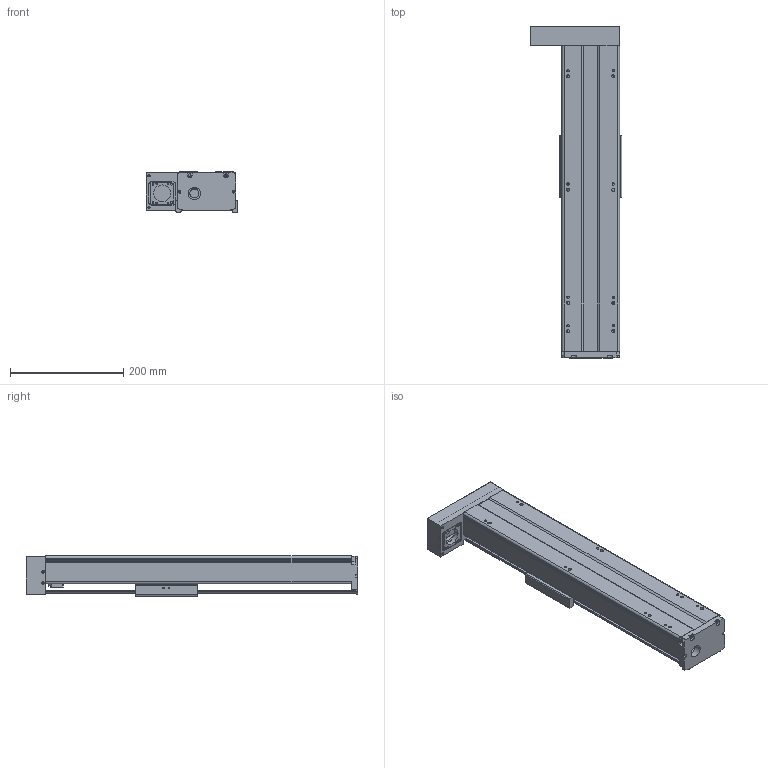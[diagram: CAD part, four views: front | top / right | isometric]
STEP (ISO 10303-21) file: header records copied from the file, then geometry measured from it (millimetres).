
FILE_DESCRIPTION(/* description */ (''),/* implementation_level */ '2;1');
FILE_NAME(/* name */ 'TKA100-FL-350_asm1.stp',/* time_stamp */ '2016-05-17T14:46:47+08:00',/* author */ (''),/* organization */ (''),/* preprocessor_version */ 'ST-DEVELOPER v15',/* originating_system */ 'SIEMENS PLM Software NX 8.5',/* authorisation */ '');
FILE_SCHEMA (('AUTOMOTIVE_DESIGN { 1 0 10303 214 3 1 1 1 }'));
Length unit declared in the file: millimetre
Products named in the file (3): 200-2; 200-1; TKA100-FL-350_asm1
Assembly tree (2 placements, depth 2):
  TKA100-FL-350_asm1
    200-1
    200-2
Bounding box: 162 x 586 x 71 mm (x, y, z)
Volume: 1403865 mm3; surface area: 480670.1 mm2
Topology: 2 solids, 16 shells, 784 faces, 2036 edges, 1323 vertices
Faces by surface type: plane 316, cylinder 295, cone 119, torus 28, bspline 26
Full cylindrical faces by diameter (mm): 2.5 x6, 2.6 x8, 3.3 x11, 3.4 x4, 3.8 x8, 4.2 x17, 4.3 x4, 4.5 x10, 5 x2, 5.5 x16, 6.6 x4, 8 x4, 9 x6, 10 x5, 11 x4, 12 x6, 15.3 x1, 16 x1, 22 x1, 24 x1, 28 x2, 30 x1, 33 x1
Entity records: 28903 total; most frequent: CARTESIAN_POINT 10637, DIRECTION 3739, ORIENTED_EDGE 3564, EDGE_CURVE 1782, AXIS2_PLACEMENT_3D 1469, VERTEX_POINT 1258, EDGE_LOOP 1075, LINE 801
